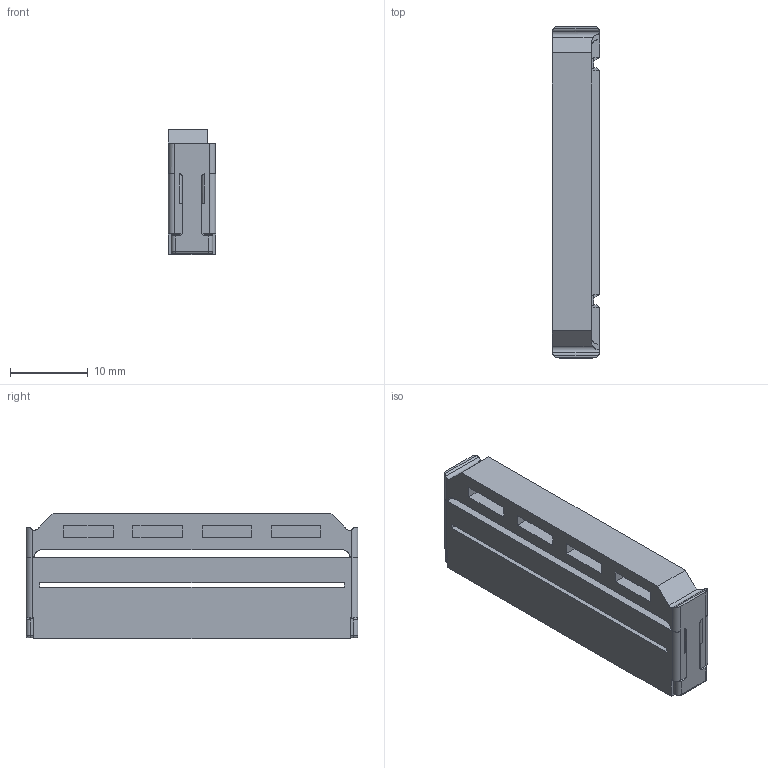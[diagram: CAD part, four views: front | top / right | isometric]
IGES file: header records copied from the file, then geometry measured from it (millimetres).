
Start section: Comment
Global section: file name: 3419-6030-01SE.igs; native system:  By Spatial Corp. IGES DAT; preprocessor: XIGES V1.0; author: Author; organization: Title; date: 20061115.175050; units: metre
Bounding box: 6.1 x 42.67 x 16.13 mm (x, y, z)
Volume: 3182 mm3; surface area: 3230.4 mm2
Topology: 1 solids, 1 shells, 377 faces, 1008 edges, 652 vertices
Faces by surface type: plane 294, cylinder 65, bspline 10, torus 8
